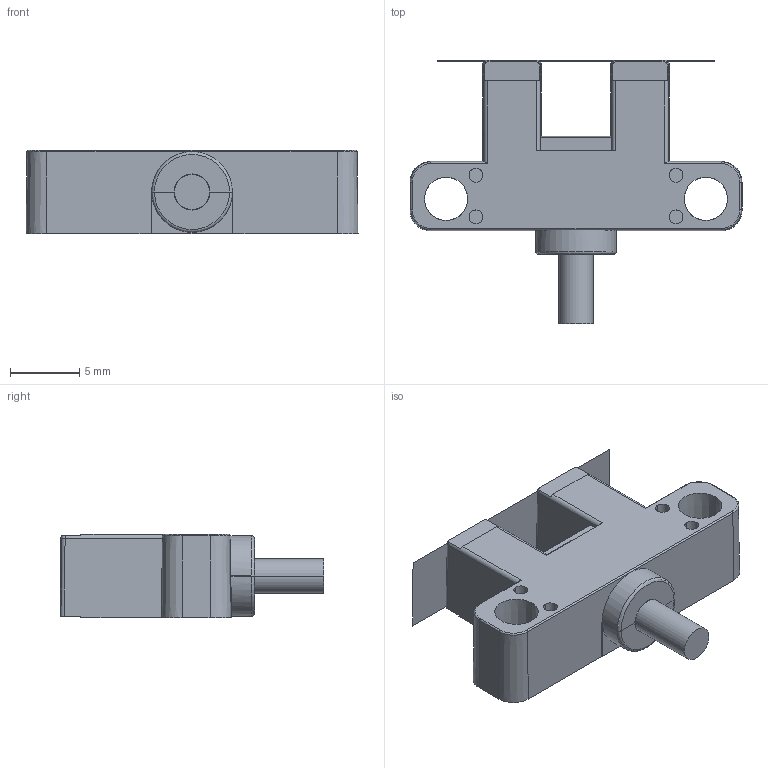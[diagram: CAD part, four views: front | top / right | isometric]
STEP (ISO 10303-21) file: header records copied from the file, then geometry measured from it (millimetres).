
FILE_DESCRIPTION((''),'2;1');
FILE_NAME('PM-K25_ASM','2018-06-23T14:36:09',('Administrator'),(''),'CREO PARAMETRIC BY PTC INC, 2016390','CREO PARAMETRIC BY PTC INC, 2016390','');
FILE_SCHEMA(('AUTOMOTIVE_DESIGN { 1 0 10303 214 1 1 1 1 }'));
Length unit declared in the file: millimetre
Products named in the file (7): PM-K25_1; PM-K25_2; 25PCB00; 0001; 25PCBASSEMBLY00_ASM; 0002; PM-K25_ASM
Assembly tree (6 placements, depth 3):
  PM-K25_ASM
    PM-K25_1
    PM-K25_2
    25PCBASSEMBLY00_ASM
      25PCB00
      0001
    0002
Bounding box: 23.9 x 19 x 6 mm (x, y, z)
Volume: 743.4 mm3; surface area: 2241.8 mm2
Topology: 7 solids, 8 shells, 360 faces, 992 edges, 651 vertices
Faces by surface type: plane 297, cylinder 38, cone 9, sphere 8, torus 6, bspline 2
Entity records: 13784 total; most frequent: CARTESIAN_POINT 2336, ORIENTED_EDGE 1964, DIRECTION 1803, EDGE_CURVE 984, VECTOR 835, LINE 835, VERTEX_POINT 651, PRESENTATION_STYLE_ASSIGNMENT 586
